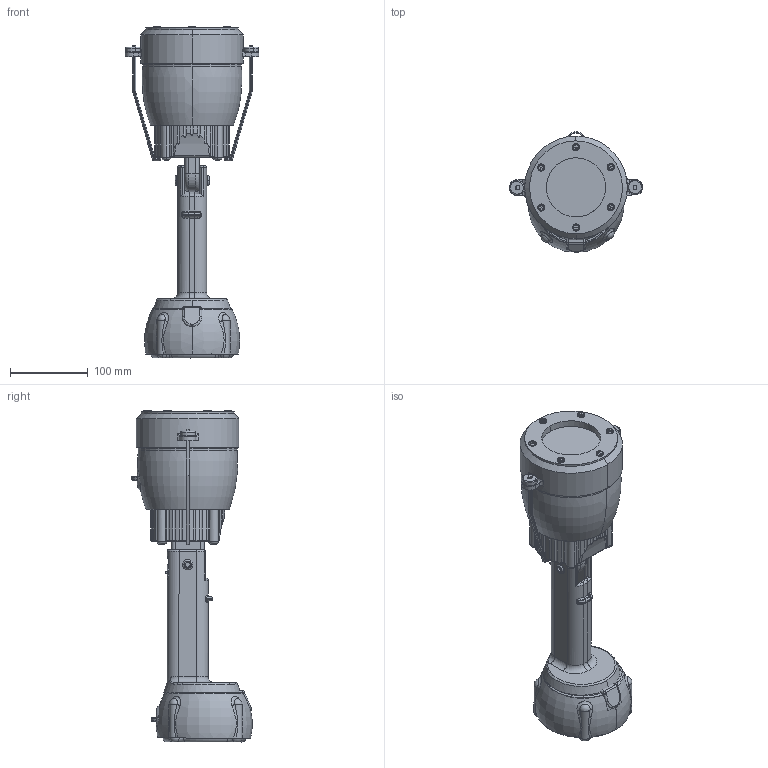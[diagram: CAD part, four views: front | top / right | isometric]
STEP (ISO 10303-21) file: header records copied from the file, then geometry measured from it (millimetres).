
FILE_DESCRIPTION (( 'STEP AP203' ), '1' );
FILE_NAME ('RL-10-IRF.STEP', '2013-10-20T02:43:34', ( 'CAD' ), ( 'Toshiba' ), 'SwSTEP 2.0', 'SolidWorks 2011', '' );
FILE_SCHEMA (( 'CONFIG_CONTROL_DESIGN' ));
Length unit declared in the file: inch
Products named in the file (10): RL-10-IRF; nut; Bulb; hook; Lens; Fiilter; RL-10 B; Handle; RL-10; Batt
Assembly tree (11 placements, depth 2):
  RL-10-IRF
    hook  x2
    RL-10 B
    Handle
    RL-10
    nut  x2
    Lens
    Batt
    Fiilter
    Bulb
Bounding box: 172.16 x 154.54 x 427.36 mm (x, y, z)
Volume: 1343957 mm3; surface area: 421453.9 mm2
Topology: 12 solids, 14 shells, 1202 faces, 3069 edges, 1899 vertices
Faces by surface type: cylinder 465, plane 338, torus 223, bspline 113, cone 43, sphere 20
Entity records: 43821 total; most frequent: CARTESIAN_POINT 16135, ORIENTED_EDGE 5858, DIRECTION 5416, EDGE_CURVE 2929, AXIS2_PLACEMENT_3D 2157, VERTEX_POINT 1829, EDGE_LOOP 1188, ADVANCED_FACE 1146
